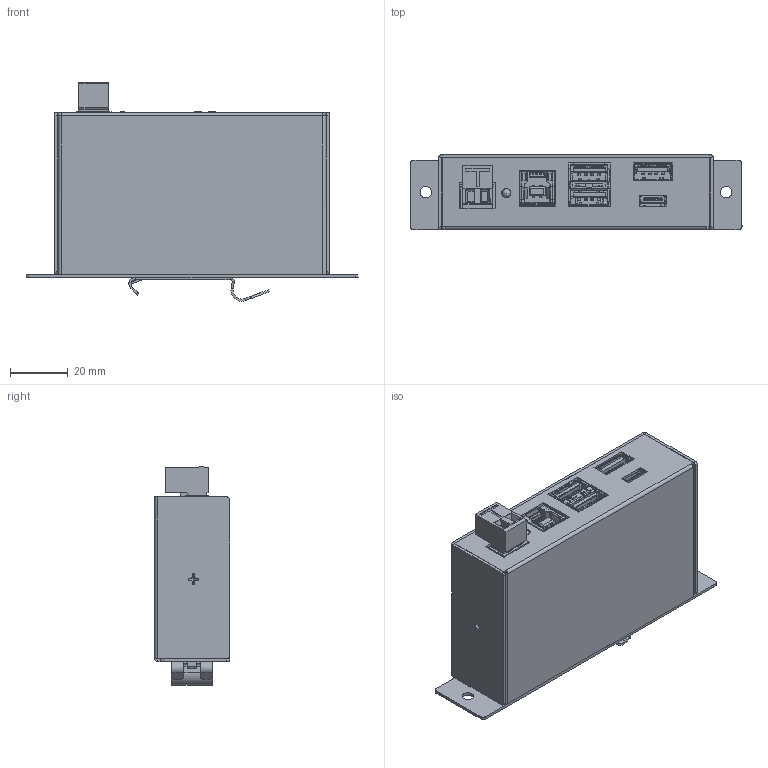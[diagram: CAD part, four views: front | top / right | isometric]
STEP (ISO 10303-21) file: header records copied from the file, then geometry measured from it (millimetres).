
FILE_DESCRIPTION(/* description */ (''),/* implementation_level */ '2;1');
FILE_NAME(/* name */ 'C:/Users/Leo/Desktop/AA CoolGear CADs/CG-4PU31C1B1/CG-4PU31C1B1 Model3D LPV1.step',/* time_stamp */ '2021-06-18T15:05:09-04:00',/* author */ (''),/* organization */ (''),/* preprocessor_version */ 'ST-DEVELOPER v18.1',/* originating_system */ 'Autodesk Translation Framework v10.9.0.1377',/* authorisation */ '');
FILE_SCHEMA (('AUTOMOTIVE_DESIGN { 1 0 10303 214 3 1 1 }'));
Products named in the file (49): CG-4PU31C1B1; TOP; Connector green Phoenix 2 holes female 5.08 v1; USB Type A Double Blue.0 v4; pin1; pin4; pin3; pin2; pin5; pin6; Housing1; Housing; Housing2; Housing4; Shielding2; Shielding; USB Type A Single Blue v1; Download_STP_692121030100_(rev1); housing1_1; pin1 (1); housing2_1; pin2 (1); pin; shielding_1; USB type C mounting pcb v3; TypeC(12); LED 1 Block mounting pcb v2; User_Library-Led_3mm_Dialight_mod__551-1107F; 93090A547; Component68; Bolt M3X0.5 100Angle 5mmHead.5 China 120ang METRIC 18-8 SS FLAT HEAD 
PHIL MACHINE SCREW v2; DINRCLP3X 14mmW v12; DINRCLP3X; M3X0.5 China 120ang METRIC 18-8 SS FLAT HEAD PHIL MACHINE SCREW v2; Connector green phoenix 2pines male 5.08 v6; USB type B Second Gen Blue.2Gen1 v2; Housing1 (1); Housing2 (1); pin1 (2); shielding (1) ...
Assembly tree (73 placements, depth 4):
  CG-4PU31C1B1
    TOP
    Connector green Phoenix 2 holes female 5.08 v1
    USB Type A Double Blue.0 v4
      pin1  x5
      pin4  x5
      pin3  x2
      pin2  x2
      pin5  x2
      pin6  x2
      Housing1
      Housing
      Housing2
      Housing4
      Shielding2
      Shielding
    USB Type A Single Blue v1
      Download_STP_692121030100_(rev1)
        housing1_1
        pin1 (1)  x5
        housing2_1
        pin2 (1)  x2
        pin  x2
        shielding_1
    USB type C mounting pcb v3
      TypeC(12)
    LED 1 Block mounting pcb v2
      User_Library-Led_3mm_Dialight_mod__551-1107F
    93090A547  x4
    Component68
    Bolt M3X0.5 100Angle 5mmHead.5 China 120ang METRIC 18-8 SS FLAT HEAD 
PHIL MACHINE SCREW v2  x2
    DINRCLP3X 14mmW v12
      DINRCLP3X
      M3X0.5 China 120ang METRIC 18-8 SS FLAT HEAD PHIL MACHINE SCREW v2  x2
    Connector green phoenix 2pines male 5.08 v6
    USB type B Second Gen Blue.2Gen1 v2
      Housing1 (1)
      Housing2 (1)
      pin1 (2)  x2
      shielding (1)
      pin2 (2)  x2
      shielding_2
      Housing3
      pin3 (1)
      pin4 (1)
      pin5 (1)
      pin3_mir2
      pin4_mir2
    Component87
Bounding box: 115 x 26 x 75.65 mm (x, y, z)
Volume: 35918.1 mm3; surface area: 68899.8 mm2
Topology: 5 solids, 76 shells, 5670 faces, 16087 edges, 10400 vertices
Faces by surface type: plane 4172, cylinder 1224, bspline 191, cone 72, sphere 7, torus 4
Full cylindrical faces by diameter (mm): 0.5 x2, 1.6 x2, 2.35 x16, 2.529 x6, 2.89 x1, 3 x24, 3.102 x1, 3.2 x1, 3.86 x2, 3.9 x2, 4 x2, 5.4 x4
Entity records: 196180 total; most frequent: CARTESIAN_POINT 47534, ORIENTED_EDGE 31906, DIRECTION 29057, EDGE_CURVE 15953, LINE 12805, VECTOR 12805, VERTEX_POINT 10320, AXIS2_PLACEMENT_3D 8126
